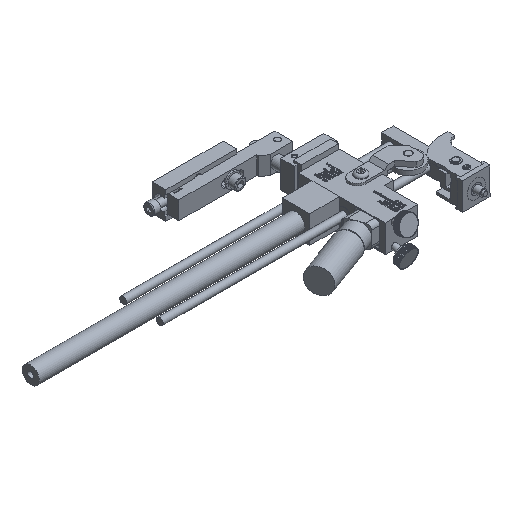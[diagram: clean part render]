
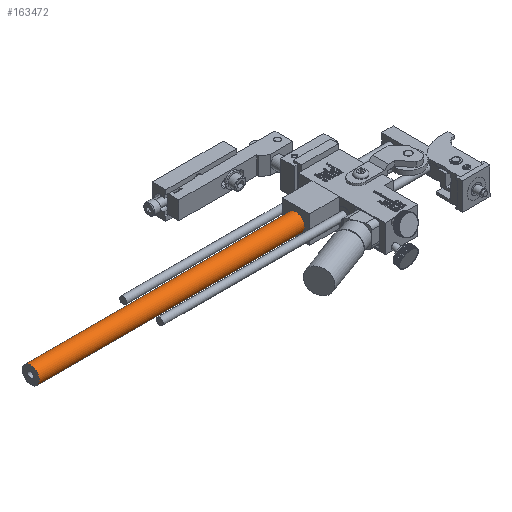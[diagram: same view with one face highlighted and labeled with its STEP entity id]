
A CAD part, isometric view. The second image highlights one B-rep face of the part: STEP entity #163472.
In plain terms, the highlighted cylindrical face has radius 5.969 mm (diameter 11.938 mm), a full revolution.
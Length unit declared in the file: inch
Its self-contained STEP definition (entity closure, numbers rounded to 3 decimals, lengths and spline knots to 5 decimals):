
#163150=CARTESIAN_POINT('',(-1.4995,0.8125,0.61));
#163151=VERTEX_POINT('',#163150);
#163152=CARTESIAN_POINT('',(-1.4995,0.8125,0.375));
#163153=DIRECTION('',(1.0,0.0,0.0));
#163154=DIRECTION('',(0.0,0.0,-1.0));
#163155=AXIS2_PLACEMENT_3D('',#163152,#163153,#163154);
#163156=CIRCLE('',#163155,0.235);
#163157=EDGE_CURVE('',#163151,#163151,#163156,.T.);
#163438=CARTESIAN_POINT('',(-8.7495,0.8125,0.61));
#163439=VERTEX_POINT('',#163438);
#163440=CARTESIAN_POINT('',(-8.7495,0.8125,0.375));
#163441=DIRECTION('',(1.0,0.0,0.0));
#163442=DIRECTION('',(0.0,0.0,-1.0));
#163443=AXIS2_PLACEMENT_3D('',#163440,#163441,#163442);
#163444=CIRCLE('',#163443,0.235);
#163445=EDGE_CURVE('',#163439,#163439,#163444,.T.);
#163461=CARTESIAN_POINT('',(-1.4995,0.8125,0.375));
#163462=DIRECTION('',(-1.0,0.,0.));
#163463=DIRECTION('',(0.0,0.0,-1.0));
#163464=AXIS2_PLACEMENT_3D('',#163461,#163462,#163463);
#163465=CYLINDRICAL_SURFACE('',#163464,0.235);
#163466=ORIENTED_EDGE('',*,*,#163445,.T.);
#163467=EDGE_LOOP('',(#163466));
#163468=FACE_OUTER_BOUND('',#163467,.T.);
#163469=ORIENTED_EDGE('',*,*,#163157,.F.);
#163470=EDGE_LOOP('',(#163469));
#163471=FACE_BOUND('',#163470,.T.);
#163472=ADVANCED_FACE('',(#163468,#163471),#163465,.T.);
